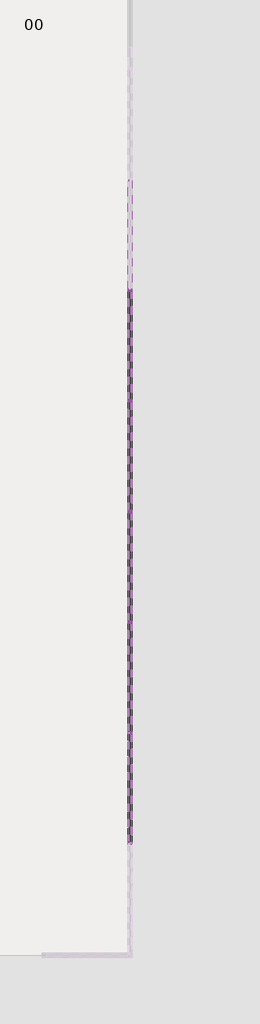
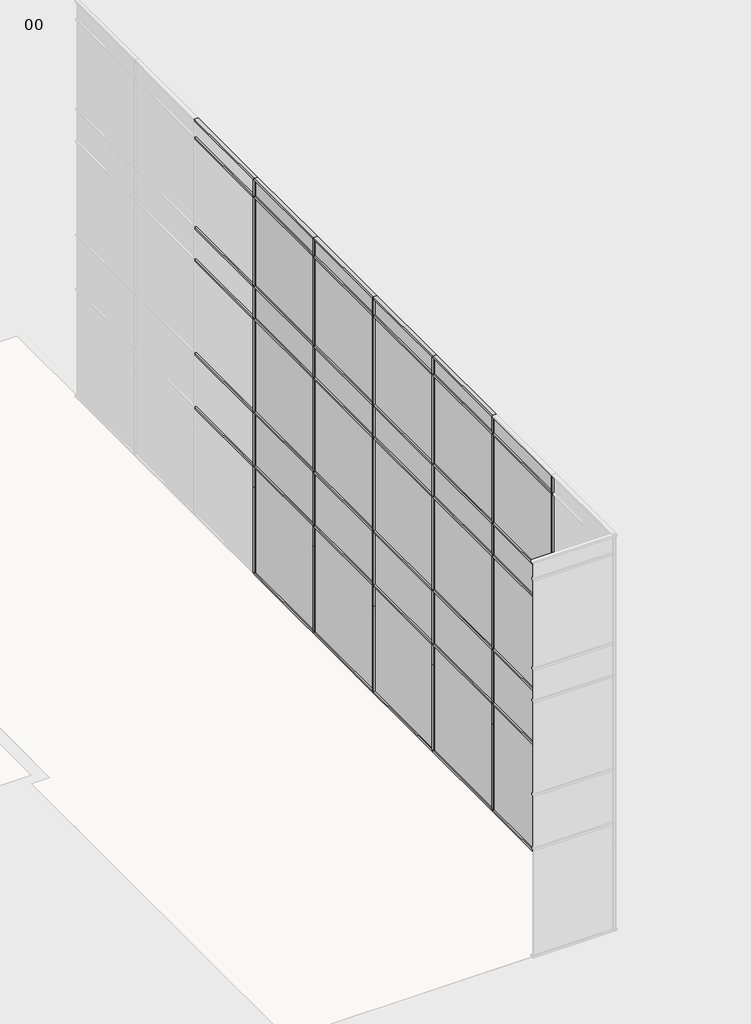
# One storey, part 5 of 11: 82 members, 30 plates.
"""IFC4 building model written with IfcOpenShell, lengths in millimetres."""

from ifc_helpers import new_model, si_unit, origin, place, context, project, spatial, transform, mapped, element, save
from components import rectangular_mullion_curtainwallmullion_rectangular_generic_8ae0e668, rectangular_mullion_curtainwallmullion_rectangular_generic_08fbcc14, rectangular_mullion_curtainwallmullion_rectangular_generic_5675a122, rectangular_mullion_curtainwallmullion_rectangular_generic_12ad56c0, rectangular_mullion_curtainwallmullion_rectangular_generic_bd817207, rectangular_mullion_curtainwallmullion_rectangular_generic_654ac675, rectangular_mullion_curtainwallmullion_rectangular_generic_c0600e94, rectangular_mullion_curtainwallmullion_rectangular_generic_c640f651, rectangular_mullion_curtainwallmullion_rectangular_generic_b2d53351, system_panel_curtainpanel_glazed_34fb785a, system_panel_curtainpanel_glazed_62d472f1, system_panel_curtainpanel_glazed_9c2ad216, system_panel_curtainpanel_solid_fc584997, system_panel_curtainpanel_solid_60141125, system_panel_curtainpanel_solid_5de49f81

model = new_model("IFC4")

# Units and contexts
model_context = context("Model", 3, world=origin())
ifc_project = project(units=[si_unit("LENGTHUNIT", "METRE", prefix="MILLI")], contexts=[model_context])

# Site, building, storey
site = spatial("IfcSite", under=ifc_project)
building = spatial("IfcBuilding", under=site)
storey = spatial("IfcBuildingStorey", under=building, Name="00", Elevation=0.0)

# Members
placement = place(None, origin())
rectangular_mullion_curtainwallmullion_rectangular_generic_shape = rectangular_mullion_curtainwallmullion_rectangular_generic_8ae0e668(model_context)
element("IfcMember", 1, ObjectType="Rectangular Mullion : CurtainWallMullion_Rectangular_Generic", at=placement, inside=storey, context=model_context, shape_type="MappedRepresentation", body=[
    mapped(rectangular_mullion_curtainwallmullion_rectangular_generic_shape, transform((454246.3206883, -392053.4026387, 10486.7), x_axis=(0.0, -1.0, 0.0), y_axis=(-1.0, 0.0, 0.0), z_axis=(0.0, 0.0, -1.0))),
])
element("IfcMember", 2, ObjectType="Rectangular Mullion : CurtainWallMullion_Rectangular_Generic", at=placement, inside=storey, context=model_context, shape_type="MappedRepresentation", body=[
    mapped(rectangular_mullion_curtainwallmullion_rectangular_generic_shape, transform((454246.3206883, -394768.0026386, 10486.7), x_axis=(0.0, -1.0, 0.0), y_axis=(-1.0, 0.0, 0.0), z_axis=(0.0, 0.0, -1.0))),
])
element("IfcMember", 3, ObjectType="Rectangular Mullion : CurtainWallMullion_Rectangular_Generic", at=placement, inside=storey, context=model_context, shape_type="MappedRepresentation", body=[
    mapped(rectangular_mullion_curtainwallmullion_rectangular_generic_shape, transform((454246.3206883, -397482.6026385, 10486.7), x_axis=(0.0, -1.0, 0.0), y_axis=(-1.0, 0.0, 0.0), z_axis=(0.0, 0.0, -1.0))),
])
element("IfcMember", 4, ObjectType="Rectangular Mullion : CurtainWallMullion_Rectangular_Generic", at=placement, inside=storey, context=model_context, shape_type="MappedRepresentation", body=[
    mapped(rectangular_mullion_curtainwallmullion_rectangular_generic_shape, transform((454246.3206883, -400197.2026385, 10486.7), x_axis=(0.0, -1.0, 0.0), y_axis=(-1.0, 0.0, 0.0), z_axis=(0.0, 0.0, -1.0))),
])
element("IfcMember", 5, ObjectType="Rectangular Mullion : CurtainWallMullion_Rectangular_Generic", at=placement, inside=storey, context=model_context, shape_type="MappedRepresentation", body=[
    mapped(rectangular_mullion_curtainwallmullion_rectangular_generic_shape, transform((454246.3206883, -402911.8026384, 10486.7), x_axis=(0.0, -1.0, 0.0), y_axis=(-1.0, 0.0, 0.0), z_axis=(0.0, 0.0, -1.0))),
])
element("IfcMember", 6, ObjectType="Rectangular Mullion : CurtainWallMullion_Rectangular_Generic", at=placement, inside=storey, context=model_context, shape_type="MappedRepresentation", body=[
    mapped(rectangular_mullion_curtainwallmullion_rectangular_generic_shape, transform((454246.3206883, -405626.4026384, 10486.7), x_axis=(0.0, -1.0, 0.0), y_axis=(-1.0, 0.0, 0.0), z_axis=(0.0, 0.0, -1.0))),
])
rectangular_mullion_curtainwallmullion_rectangular_generic_2_shape = rectangular_mullion_curtainwallmullion_rectangular_generic_08fbcc14(model_context)
element("IfcMember", 7, ObjectType="Rectangular Mullion : CurtainWallMullion_Rectangular_Generic", at=placement, inside=storey, context=model_context, shape_type="MappedRepresentation", body=[
    mapped(rectangular_mullion_curtainwallmullion_rectangular_generic_2_shape, transform((454246.3206883, -392053.4026387, 8000.0), x_axis=(0.0, -1.0, 0.0), y_axis=(-1.0, 0.0, 0.0), z_axis=(0.0, 0.0, -1.0))),
])
element("IfcMember", 8, ObjectType="Rectangular Mullion : CurtainWallMullion_Rectangular_Generic", at=placement, inside=storey, context=model_context, shape_type="MappedRepresentation", body=[
    mapped(rectangular_mullion_curtainwallmullion_rectangular_generic_2_shape, transform((454246.3206883, -394768.0026386, 8000.0), x_axis=(0.0, -1.0, 0.0), y_axis=(-1.0, 0.0, 0.0), z_axis=(0.0, 0.0, -1.0))),
])
element("IfcMember", 9, ObjectType="Rectangular Mullion : CurtainWallMullion_Rectangular_Generic", at=placement, inside=storey, context=model_context, shape_type="MappedRepresentation", body=[
    mapped(rectangular_mullion_curtainwallmullion_rectangular_generic_2_shape, transform((454246.3206883, -397482.6026385, 8000.0), x_axis=(0.0, -1.0, 0.0), y_axis=(-1.0, 0.0, 0.0), z_axis=(0.0, 0.0, -1.0))),
])
element("IfcMember", 10, ObjectType="Rectangular Mullion : CurtainWallMullion_Rectangular_Generic", at=placement, inside=storey, context=model_context, shape_type="MappedRepresentation", body=[
    mapped(rectangular_mullion_curtainwallmullion_rectangular_generic_2_shape, transform((454246.3206883, -400197.2026385, 8000.0), x_axis=(0.0, -1.0, 0.0), y_axis=(-1.0, 0.0, 0.0), z_axis=(0.0, 0.0, -1.0))),
])
element("IfcMember", 11, ObjectType="Rectangular Mullion : CurtainWallMullion_Rectangular_Generic", at=placement, inside=storey, context=model_context, shape_type="MappedRepresentation", body=[
    mapped(rectangular_mullion_curtainwallmullion_rectangular_generic_2_shape, transform((454246.3206883, -402911.8026384, 8000.0), x_axis=(0.0, -1.0, 0.0), y_axis=(-1.0, 0.0, 0.0), z_axis=(0.0, 0.0, -1.0))),
])
element("IfcMember", 12, ObjectType="Rectangular Mullion : CurtainWallMullion_Rectangular_Generic", at=placement, inside=storey, context=model_context, shape_type="MappedRepresentation", body=[
    mapped(rectangular_mullion_curtainwallmullion_rectangular_generic_2_shape, transform((454246.3206883, -405626.4026384, 8000.0), x_axis=(0.0, -1.0, 0.0), y_axis=(-1.0, 0.0, 0.0), z_axis=(0.0, 0.0, -1.0))),
])
rectangular_mullion_curtainwallmullion_rectangular_generic_3_shape = rectangular_mullion_curtainwallmullion_rectangular_generic_5675a122(model_context)
element("IfcMember", 13, ObjectType="Rectangular Mullion : CurtainWallMullion_Rectangular_Generic", at=placement, inside=storey, context=model_context, shape_type="MappedRepresentation", body=[
    mapped(rectangular_mullion_curtainwallmullion_rectangular_generic_3_shape, transform((454246.3206883, -392053.4026387, 50.0), x_axis=(0.0, -1.0, 0.0), y_axis=(-1.0, 0.0, 0.0), z_axis=(0.0, 0.0, -1.0))),
])
element("IfcMember", 14, ObjectType="Rectangular Mullion : CurtainWallMullion_Rectangular_Generic", at=placement, inside=storey, context=model_context, shape_type="MappedRepresentation", body=[
    mapped(rectangular_mullion_curtainwallmullion_rectangular_generic_3_shape, transform((454246.3206883, -394768.0026386, 50.0), x_axis=(0.0, -1.0, 0.0), y_axis=(-1.0, 0.0, 0.0), z_axis=(0.0, 0.0, -1.0))),
])
element("IfcMember", 15, ObjectType="Rectangular Mullion : CurtainWallMullion_Rectangular_Generic", at=placement, inside=storey, context=model_context, shape_type="MappedRepresentation", body=[
    mapped(rectangular_mullion_curtainwallmullion_rectangular_generic_3_shape, transform((454246.3206883, -397482.6026385, 50.0), x_axis=(0.0, -1.0, 0.0), y_axis=(-1.0, 0.0, 0.0), z_axis=(0.0, 0.0, -1.0))),
])
element("IfcMember", 16, ObjectType="Rectangular Mullion : CurtainWallMullion_Rectangular_Generic", at=placement, inside=storey, context=model_context, shape_type="MappedRepresentation", body=[
    mapped(rectangular_mullion_curtainwallmullion_rectangular_generic_3_shape, transform((454246.3206883, -400197.2026385, 50.0), x_axis=(0.0, -1.0, 0.0), y_axis=(-1.0, 0.0, 0.0), z_axis=(0.0, 0.0, -1.0))),
])
element("IfcMember", 17, ObjectType="Rectangular Mullion : CurtainWallMullion_Rectangular_Generic", at=placement, inside=storey, context=model_context, shape_type="MappedRepresentation", body=[
    mapped(rectangular_mullion_curtainwallmullion_rectangular_generic_3_shape, transform((454246.3206883, -402911.8026384, 50.0), x_axis=(0.0, -1.0, 0.0), y_axis=(-1.0, 0.0, 0.0), z_axis=(0.0, 0.0, -1.0))),
])
element("IfcMember", 18, ObjectType="Rectangular Mullion : CurtainWallMullion_Rectangular_Generic", at=placement, inside=storey, context=model_context, shape_type="MappedRepresentation", body=[
    mapped(rectangular_mullion_curtainwallmullion_rectangular_generic_3_shape, transform((454246.3206883, -405626.4026384, 50.0), x_axis=(0.0, -1.0, 0.0), y_axis=(-1.0, 0.0, 0.0), z_axis=(0.0, 0.0, -1.0))),
])
rectangular_mullion_curtainwallmullion_rectangular_generic_4_shape = rectangular_mullion_curtainwallmullion_rectangular_generic_12ad56c0(model_context)
element("IfcMember", 19, ObjectType="Rectangular Mullion : CurtainWallMullion_Rectangular_Generic", at=placement, inside=storey, context=model_context, shape_type="MappedRepresentation", body=[
    mapped(rectangular_mullion_curtainwallmullion_rectangular_generic_4_shape, transform((454246.3206883, -392053.4026387, 11000.0), x_axis=(0.0, 0.0, 1.0), y_axis=(-1.0, 0.0, 0.0), z_axis=(0.0, -1.0, 0.0))),
])
element("IfcMember", 20, ObjectType="Rectangular Mullion : CurtainWallMullion_Rectangular_Generic", at=placement, inside=storey, context=model_context, shape_type="MappedRepresentation", body=[
    mapped(rectangular_mullion_curtainwallmullion_rectangular_generic_4_shape, transform((454246.3206883, -394768.0026386, 11000.0), x_axis=(0.0, 0.0, 1.0), y_axis=(-1.0, 0.0, 0.0), z_axis=(0.0, -1.0, 0.0))),
])
element("IfcMember", 21, ObjectType="Rectangular Mullion : CurtainWallMullion_Rectangular_Generic", at=placement, inside=storey, context=model_context, shape_type="MappedRepresentation", body=[
    mapped(rectangular_mullion_curtainwallmullion_rectangular_generic_4_shape, transform((454246.3206883, -397482.6026385, 11000.0), x_axis=(0.0, 0.0, 1.0), y_axis=(-1.0, 0.0, 0.0), z_axis=(0.0, -1.0, 0.0))),
])
element("IfcMember", 22, ObjectType="Rectangular Mullion : CurtainWallMullion_Rectangular_Generic", at=placement, inside=storey, context=model_context, shape_type="MappedRepresentation", body=[
    mapped(rectangular_mullion_curtainwallmullion_rectangular_generic_4_shape, transform((454246.3206883, -400197.2026385, 11000.0), x_axis=(0.0, 0.0, 1.0), y_axis=(-1.0, 0.0, 0.0), z_axis=(0.0, -1.0, 0.0))),
])
element("IfcMember", 23, ObjectType="Rectangular Mullion : CurtainWallMullion_Rectangular_Generic", at=placement, inside=storey, context=model_context, shape_type="MappedRepresentation", body=[
    mapped(rectangular_mullion_curtainwallmullion_rectangular_generic_4_shape, transform((454246.3206883, -402911.8026384, 11000.0), x_axis=(0.0, 0.0, 1.0), y_axis=(-1.0, 0.0, 0.0), z_axis=(0.0, -1.0, 0.0))),
])
element("IfcMember", 24, ObjectType="Rectangular Mullion : CurtainWallMullion_Rectangular_Generic", at=placement, inside=storey, context=model_context, shape_type="MappedRepresentation", body=[
    mapped(rectangular_mullion_curtainwallmullion_rectangular_generic_4_shape, transform((454246.3206883, -392053.4026387, 0.0), x_axis=(0.0, 0.0, -1.0), y_axis=(-1.0, 0.0, 0.0), z_axis=(0.0, 1.0, 0.0))),
])
element("IfcMember", 25, ObjectType="Rectangular Mullion : CurtainWallMullion_Rectangular_Generic", at=placement, inside=storey, context=model_context, shape_type="MappedRepresentation", body=[
    mapped(rectangular_mullion_curtainwallmullion_rectangular_generic_4_shape, transform((454246.3206883, -394768.0026386, 0.0), x_axis=(0.0, 0.0, -1.0), y_axis=(-1.0, 0.0, 0.0), z_axis=(0.0, 1.0, 0.0))),
])
element("IfcMember", 26, ObjectType="Rectangular Mullion : CurtainWallMullion_Rectangular_Generic", at=placement, inside=storey, context=model_context, shape_type="MappedRepresentation", body=[
    mapped(rectangular_mullion_curtainwallmullion_rectangular_generic_4_shape, transform((454246.3206883, -397482.6026385, 0.0), x_axis=(0.0, 0.0, -1.0), y_axis=(-1.0, 0.0, 0.0), z_axis=(0.0, 1.0, 0.0))),
])
element("IfcMember", 27, ObjectType="Rectangular Mullion : CurtainWallMullion_Rectangular_Generic", at=placement, inside=storey, context=model_context, shape_type="MappedRepresentation", body=[
    mapped(rectangular_mullion_curtainwallmullion_rectangular_generic_4_shape, transform((454246.3206883, -400197.2026385, 0.0), x_axis=(0.0, 0.0, -1.0), y_axis=(-1.0, 0.0, 0.0), z_axis=(0.0, 1.0, 0.0))),
])
element("IfcMember", 28, ObjectType="Rectangular Mullion : CurtainWallMullion_Rectangular_Generic", at=placement, inside=storey, context=model_context, shape_type="MappedRepresentation", body=[
    mapped(rectangular_mullion_curtainwallmullion_rectangular_generic_4_shape, transform((454246.3206883, -402911.8026384, 0.0), x_axis=(0.0, 0.0, -1.0), y_axis=(-1.0, 0.0, 0.0), z_axis=(0.0, 1.0, 0.0))),
])
rectangular_mullion_curtainwallmullion_rectangular_generic_5_shape = rectangular_mullion_curtainwallmullion_rectangular_generic_bd817207(model_context)
element("IfcMember", 29, ObjectType="Rectangular Mullion : CurtainWallMullion_Rectangular_Generic", at=placement, inside=storey, context=model_context, shape_type="MappedRepresentation", body=[
    mapped(rectangular_mullion_curtainwallmullion_rectangular_generic_5_shape, transform((454246.3206883, -392028.4026387, 4500.0), x_axis=(0.0, 0.0, 1.0), y_axis=(-1.0, 0.0, 0.0), z_axis=(0.0, -1.0, 0.0))),
])
element("IfcMember", 30, ObjectType="Rectangular Mullion : CurtainWallMullion_Rectangular_Generic", at=placement, inside=storey, context=model_context, shape_type="MappedRepresentation", body=[
    mapped(rectangular_mullion_curtainwallmullion_rectangular_generic_5_shape, transform((454246.3206883, -394743.0026386, 4500.0), x_axis=(0.0, 0.0, 1.0), y_axis=(-1.0, 0.0, 0.0), z_axis=(0.0, -1.0, 0.0))),
])
element("IfcMember", 31, ObjectType="Rectangular Mullion : CurtainWallMullion_Rectangular_Generic", at=placement, inside=storey, context=model_context, shape_type="MappedRepresentation", body=[
    mapped(rectangular_mullion_curtainwallmullion_rectangular_generic_5_shape, transform((454246.3206883, -392028.4026387, 7100.0), x_axis=(0.0, 0.0, 1.0), y_axis=(-1.0, 0.0, 0.0), z_axis=(0.0, -1.0, 0.0))),
])
element("IfcMember", 32, ObjectType="Rectangular Mullion : CurtainWallMullion_Rectangular_Generic", at=placement, inside=storey, context=model_context, shape_type="MappedRepresentation", body=[
    mapped(rectangular_mullion_curtainwallmullion_rectangular_generic_5_shape, transform((454246.3206883, -394743.0026386, 7100.0), x_axis=(0.0, 0.0, 1.0), y_axis=(-1.0, 0.0, 0.0), z_axis=(0.0, -1.0, 0.0))),
])
element("IfcMember", 33, ObjectType="Rectangular Mullion : CurtainWallMullion_Rectangular_Generic", at=placement, inside=storey, context=model_context, shape_type="MappedRepresentation", body=[
    mapped(rectangular_mullion_curtainwallmullion_rectangular_generic_5_shape, transform((454246.3206883, -392028.4026387, 10486.7), x_axis=(0.0, 0.0, 1.0), y_axis=(-1.0, 0.0, 0.0), z_axis=(0.0, -1.0, 0.0))),
])
element("IfcMember", 34, ObjectType="Rectangular Mullion : CurtainWallMullion_Rectangular_Generic", at=placement, inside=storey, context=model_context, shape_type="MappedRepresentation", body=[
    mapped(rectangular_mullion_curtainwallmullion_rectangular_generic_5_shape, transform((454246.3206883, -394743.0026386, 10486.7), x_axis=(0.0, 0.0, 1.0), y_axis=(-1.0, 0.0, 0.0), z_axis=(0.0, -1.0, 0.0))),
])
element("IfcMember", 35, ObjectType="Rectangular Mullion : CurtainWallMullion_Rectangular_Generic", at=placement, inside=storey, context=model_context, shape_type="MappedRepresentation", body=[
    mapped(rectangular_mullion_curtainwallmullion_rectangular_generic_5_shape, transform((454246.3206883, -397457.6026385, 4500.0), x_axis=(0.0, 0.0, 1.0), y_axis=(-1.0, 0.0, 0.0), z_axis=(0.0, -1.0, 0.0))),
])
element("IfcMember", 36, ObjectType="Rectangular Mullion : CurtainWallMullion_Rectangular_Generic", at=placement, inside=storey, context=model_context, shape_type="MappedRepresentation", body=[
    mapped(rectangular_mullion_curtainwallmullion_rectangular_generic_5_shape, transform((454246.3206883, -400172.2026385, 4500.0), x_axis=(0.0, 0.0, 1.0), y_axis=(-1.0, 0.0, 0.0), z_axis=(0.0, -1.0, 0.0))),
])
element("IfcMember", 37, ObjectType="Rectangular Mullion : CurtainWallMullion_Rectangular_Generic", at=placement, inside=storey, context=model_context, shape_type="MappedRepresentation", body=[
    mapped(rectangular_mullion_curtainwallmullion_rectangular_generic_5_shape, transform((454246.3206883, -402886.8026384, 4500.0), x_axis=(0.0, 0.0, 1.0), y_axis=(-1.0, 0.0, 0.0), z_axis=(0.0, -1.0, 0.0))),
])
element("IfcMember", 38, ObjectType="Rectangular Mullion : CurtainWallMullion_Rectangular_Generic", at=placement, inside=storey, context=model_context, shape_type="MappedRepresentation", body=[
    mapped(rectangular_mullion_curtainwallmullion_rectangular_generic_5_shape, transform((454246.3206883, -405601.4026384, 4500.0), x_axis=(0.0, 0.0, 1.0), y_axis=(-1.0, 0.0, 0.0), z_axis=(0.0, -1.0, 0.0))),
])
element("IfcMember", 39, ObjectType="Rectangular Mullion : CurtainWallMullion_Rectangular_Generic", at=placement, inside=storey, context=model_context, shape_type="MappedRepresentation", body=[
    mapped(rectangular_mullion_curtainwallmullion_rectangular_generic_5_shape, transform((454246.3206883, -397457.6026385, 7100.0), x_axis=(0.0, 0.0, 1.0), y_axis=(-1.0, 0.0, 0.0), z_axis=(0.0, -1.0, 0.0))),
])
element("IfcMember", 40, ObjectType="Rectangular Mullion : CurtainWallMullion_Rectangular_Generic", at=placement, inside=storey, context=model_context, shape_type="MappedRepresentation", body=[
    mapped(rectangular_mullion_curtainwallmullion_rectangular_generic_5_shape, transform((454246.3206883, -400172.2026385, 7100.0), x_axis=(0.0, 0.0, 1.0), y_axis=(-1.0, 0.0, 0.0), z_axis=(0.0, -1.0, 0.0))),
])
element("IfcMember", 41, ObjectType="Rectangular Mullion : CurtainWallMullion_Rectangular_Generic", at=placement, inside=storey, context=model_context, shape_type="MappedRepresentation", body=[
    mapped(rectangular_mullion_curtainwallmullion_rectangular_generic_5_shape, transform((454246.3206883, -402886.8026384, 7100.0), x_axis=(0.0, 0.0, 1.0), y_axis=(-1.0, 0.0, 0.0), z_axis=(0.0, -1.0, 0.0))),
])
element("IfcMember", 42, ObjectType="Rectangular Mullion : CurtainWallMullion_Rectangular_Generic", at=placement, inside=storey, context=model_context, shape_type="MappedRepresentation", body=[
    mapped(rectangular_mullion_curtainwallmullion_rectangular_generic_5_shape, transform((454246.3206883, -405601.4026384, 7100.0), x_axis=(0.0, 0.0, 1.0), y_axis=(-1.0, 0.0, 0.0), z_axis=(0.0, -1.0, 0.0))),
])
element("IfcMember", 43, ObjectType="Rectangular Mullion : CurtainWallMullion_Rectangular_Generic", at=placement, inside=storey, context=model_context, shape_type="MappedRepresentation", body=[
    mapped(rectangular_mullion_curtainwallmullion_rectangular_generic_5_shape, transform((454246.3206883, -397457.6026385, 10486.7), x_axis=(0.0, 0.0, 1.0), y_axis=(-1.0, 0.0, 0.0), z_axis=(0.0, -1.0, 0.0))),
])
element("IfcMember", 44, ObjectType="Rectangular Mullion : CurtainWallMullion_Rectangular_Generic", at=placement, inside=storey, context=model_context, shape_type="MappedRepresentation", body=[
    mapped(rectangular_mullion_curtainwallmullion_rectangular_generic_5_shape, transform((454246.3206883, -400172.2026385, 10486.7), x_axis=(0.0, 0.0, 1.0), y_axis=(-1.0, 0.0, 0.0), z_axis=(0.0, -1.0, 0.0))),
])
element("IfcMember", 45, ObjectType="Rectangular Mullion : CurtainWallMullion_Rectangular_Generic", at=placement, inside=storey, context=model_context, shape_type="MappedRepresentation", body=[
    mapped(rectangular_mullion_curtainwallmullion_rectangular_generic_5_shape, transform((454246.3206883, -402886.8026384, 10486.7), x_axis=(0.0, 0.0, 1.0), y_axis=(-1.0, 0.0, 0.0), z_axis=(0.0, -1.0, 0.0))),
])
element("IfcMember", 46, ObjectType="Rectangular Mullion : CurtainWallMullion_Rectangular_Generic", at=placement, inside=storey, context=model_context, shape_type="MappedRepresentation", body=[
    mapped(rectangular_mullion_curtainwallmullion_rectangular_generic_5_shape, transform((454246.3206883, -405601.4026384, 10486.7), x_axis=(0.0, 0.0, 1.0), y_axis=(-1.0, 0.0, 0.0), z_axis=(0.0, -1.0, 0.0))),
])
element("IfcMember", 47, ObjectType="Rectangular Mullion : CurtainWallMullion_Rectangular_Generic", at=placement, inside=storey, context=model_context, shape_type="MappedRepresentation", body=[
    mapped(rectangular_mullion_curtainwallmullion_rectangular_generic_5_shape, transform((454246.3206883, -392028.4026387, 8000.0), x_axis=(0.0, 0.0, 1.0), y_axis=(-1.0, 0.0, 0.0), z_axis=(0.0, -1.0, 0.0))),
])
element("IfcMember", 48, ObjectType="Rectangular Mullion : CurtainWallMullion_Rectangular_Generic", at=placement, inside=storey, context=model_context, shape_type="MappedRepresentation", body=[
    mapped(rectangular_mullion_curtainwallmullion_rectangular_generic_5_shape, transform((454246.3206883, -394743.0026386, 8000.0), x_axis=(0.0, 0.0, 1.0), y_axis=(-1.0, 0.0, 0.0), z_axis=(0.0, -1.0, 0.0))),
])
element("IfcMember", 49, ObjectType="Rectangular Mullion : CurtainWallMullion_Rectangular_Generic", at=placement, inside=storey, context=model_context, shape_type="MappedRepresentation", body=[
    mapped(rectangular_mullion_curtainwallmullion_rectangular_generic_5_shape, transform((454246.3206883, -397457.6026385, 8000.0), x_axis=(0.0, 0.0, 1.0), y_axis=(-1.0, 0.0, 0.0), z_axis=(0.0, -1.0, 0.0))),
])
element("IfcMember", 50, ObjectType="Rectangular Mullion : CurtainWallMullion_Rectangular_Generic", at=placement, inside=storey, context=model_context, shape_type="MappedRepresentation", body=[
    mapped(rectangular_mullion_curtainwallmullion_rectangular_generic_5_shape, transform((454246.3206883, -400172.2026385, 8000.0), x_axis=(0.0, 0.0, 1.0), y_axis=(-1.0, 0.0, 0.0), z_axis=(0.0, -1.0, 0.0))),
])
element("IfcMember", 51, ObjectType="Rectangular Mullion : CurtainWallMullion_Rectangular_Generic", at=placement, inside=storey, context=model_context, shape_type="MappedRepresentation", body=[
    mapped(rectangular_mullion_curtainwallmullion_rectangular_generic_5_shape, transform((454246.3206883, -402886.8026384, 8000.0), x_axis=(0.0, 0.0, 1.0), y_axis=(-1.0, 0.0, 0.0), z_axis=(0.0, -1.0, 0.0))),
])
element("IfcMember", 52, ObjectType="Rectangular Mullion : CurtainWallMullion_Rectangular_Generic", at=placement, inside=storey, context=model_context, shape_type="MappedRepresentation", body=[
    mapped(rectangular_mullion_curtainwallmullion_rectangular_generic_5_shape, transform((454246.3206883, -405601.4026384, 8000.0), x_axis=(0.0, 0.0, 1.0), y_axis=(-1.0, 0.0, 0.0), z_axis=(0.0, -1.0, 0.0))),
])
element("IfcMember", 53, ObjectType="Rectangular Mullion : CurtainWallMullion_Rectangular_Generic", at=placement, inside=storey, context=model_context, shape_type="MappedRepresentation", body=[
    mapped(rectangular_mullion_curtainwallmullion_rectangular_generic_5_shape, transform((454246.3206883, -392028.4026387, 3000.0), x_axis=(0.0, 0.0, 1.0), y_axis=(-1.0, 0.0, 0.0), z_axis=(0.0, -1.0, 0.0))),
])
element("IfcMember", 54, ObjectType="Rectangular Mullion : CurtainWallMullion_Rectangular_Generic", at=placement, inside=storey, context=model_context, shape_type="MappedRepresentation", body=[
    mapped(rectangular_mullion_curtainwallmullion_rectangular_generic_5_shape, transform((454246.3206883, -394743.0026386, 3000.0), x_axis=(0.0, 0.0, 1.0), y_axis=(-1.0, 0.0, 0.0), z_axis=(0.0, -1.0, 0.0))),
])
element("IfcMember", 55, ObjectType="Rectangular Mullion : CurtainWallMullion_Rectangular_Generic", at=placement, inside=storey, context=model_context, shape_type="MappedRepresentation", body=[
    mapped(rectangular_mullion_curtainwallmullion_rectangular_generic_5_shape, transform((454246.3206883, -397457.6026385, 3000.0), x_axis=(0.0, 0.0, 1.0), y_axis=(-1.0, 0.0, 0.0), z_axis=(0.0, -1.0, 0.0))),
])
element("IfcMember", 56, ObjectType="Rectangular Mullion : CurtainWallMullion_Rectangular_Generic", at=placement, inside=storey, context=model_context, shape_type="MappedRepresentation", body=[
    mapped(rectangular_mullion_curtainwallmullion_rectangular_generic_5_shape, transform((454246.3206883, -400172.2026385, 3000.0), x_axis=(0.0, 0.0, 1.0), y_axis=(-1.0, 0.0, 0.0), z_axis=(0.0, -1.0, 0.0))),
])
element("IfcMember", 57, ObjectType="Rectangular Mullion : CurtainWallMullion_Rectangular_Generic", at=placement, inside=storey, context=model_context, shape_type="MappedRepresentation", body=[
    mapped(rectangular_mullion_curtainwallmullion_rectangular_generic_5_shape, transform((454246.3206883, -402886.8026384, 3000.0), x_axis=(0.0, 0.0, 1.0), y_axis=(-1.0, 0.0, 0.0), z_axis=(0.0, -1.0, 0.0))),
])
element("IfcMember", 58, ObjectType="Rectangular Mullion : CurtainWallMullion_Rectangular_Generic", at=placement, inside=storey, context=model_context, shape_type="MappedRepresentation", body=[
    mapped(rectangular_mullion_curtainwallmullion_rectangular_generic_5_shape, transform((454246.3206883, -405601.4026384, 3000.0), x_axis=(0.0, 0.0, 1.0), y_axis=(-1.0, 0.0, 0.0), z_axis=(0.0, -1.0, 0.0))),
])
rectangular_mullion_curtainwallmullion_rectangular_generic_6_shape = rectangular_mullion_curtainwallmullion_rectangular_generic_654ac675(model_context)
element("IfcMember", 59, ObjectType="Rectangular Mullion : CurtainWallMullion_Rectangular_Generic", at=placement, inside=storey, context=model_context, shape_type="MappedRepresentation", body=[
    mapped(rectangular_mullion_curtainwallmullion_rectangular_generic_6_shape, transform((454246.3206883, -392053.4026387, 4500.0), x_axis=(0.0, -1.0, 0.0), y_axis=(-1.0, 0.0, 0.0), z_axis=(0.0, 0.0, -1.0))),
])
element("IfcMember", 60, ObjectType="Rectangular Mullion : CurtainWallMullion_Rectangular_Generic", at=placement, inside=storey, context=model_context, shape_type="MappedRepresentation", body=[
    mapped(rectangular_mullion_curtainwallmullion_rectangular_generic_6_shape, transform((454246.3206883, -394768.0026386, 4500.0), x_axis=(0.0, -1.0, 0.0), y_axis=(-1.0, 0.0, 0.0), z_axis=(0.0, 0.0, -1.0))),
])
element("IfcMember", 61, ObjectType="Rectangular Mullion : CurtainWallMullion_Rectangular_Generic", at=placement, inside=storey, context=model_context, shape_type="MappedRepresentation", body=[
    mapped(rectangular_mullion_curtainwallmullion_rectangular_generic_6_shape, transform((454246.3206883, -397482.6026385, 4500.0), x_axis=(0.0, -1.0, 0.0), y_axis=(-1.0, 0.0, 0.0), z_axis=(0.0, 0.0, -1.0))),
])
element("IfcMember", 62, ObjectType="Rectangular Mullion : CurtainWallMullion_Rectangular_Generic", at=placement, inside=storey, context=model_context, shape_type="MappedRepresentation", body=[
    mapped(rectangular_mullion_curtainwallmullion_rectangular_generic_6_shape, transform((454246.3206883, -400197.2026385, 4500.0), x_axis=(0.0, -1.0, 0.0), y_axis=(-1.0, 0.0, 0.0), z_axis=(0.0, 0.0, -1.0))),
])
element("IfcMember", 63, ObjectType="Rectangular Mullion : CurtainWallMullion_Rectangular_Generic", at=placement, inside=storey, context=model_context, shape_type="MappedRepresentation", body=[
    mapped(rectangular_mullion_curtainwallmullion_rectangular_generic_6_shape, transform((454246.3206883, -402911.8026384, 4500.0), x_axis=(0.0, -1.0, 0.0), y_axis=(-1.0, 0.0, 0.0), z_axis=(0.0, 0.0, -1.0))),
])
element("IfcMember", 64, ObjectType="Rectangular Mullion : CurtainWallMullion_Rectangular_Generic", at=placement, inside=storey, context=model_context, shape_type="MappedRepresentation", body=[
    mapped(rectangular_mullion_curtainwallmullion_rectangular_generic_6_shape, transform((454246.3206883, -405626.4026384, 4500.0), x_axis=(0.0, -1.0, 0.0), y_axis=(-1.0, 0.0, 0.0), z_axis=(0.0, 0.0, -1.0))),
])
rectangular_mullion_curtainwallmullion_rectangular_generic_7_shape = rectangular_mullion_curtainwallmullion_rectangular_generic_c0600e94(model_context)
element("IfcMember", 65, ObjectType="Rectangular Mullion : CurtainWallMullion_Rectangular_Generic", at=placement, inside=storey, context=model_context, shape_type="MappedRepresentation", body=[
    mapped(rectangular_mullion_curtainwallmullion_rectangular_generic_7_shape, transform((454246.3206883, -392053.4026387, 3000.0), x_axis=(0.0, -1.0, 0.0), y_axis=(-1.0, 0.0, 0.0), z_axis=(0.0, 0.0, -1.0))),
])
element("IfcMember", 66, ObjectType="Rectangular Mullion : CurtainWallMullion_Rectangular_Generic", at=placement, inside=storey, context=model_context, shape_type="MappedRepresentation", body=[
    mapped(rectangular_mullion_curtainwallmullion_rectangular_generic_7_shape, transform((454246.3206883, -394768.0026386, 3000.0), x_axis=(0.0, -1.0, 0.0), y_axis=(-1.0, 0.0, 0.0), z_axis=(0.0, 0.0, -1.0))),
])
element("IfcMember", 67, ObjectType="Rectangular Mullion : CurtainWallMullion_Rectangular_Generic", at=placement, inside=storey, context=model_context, shape_type="MappedRepresentation", body=[
    mapped(rectangular_mullion_curtainwallmullion_rectangular_generic_7_shape, transform((454246.3206883, -397482.6026385, 3000.0), x_axis=(0.0, -1.0, 0.0), y_axis=(-1.0, 0.0, 0.0), z_axis=(0.0, 0.0, -1.0))),
])
element("IfcMember", 68, ObjectType="Rectangular Mullion : CurtainWallMullion_Rectangular_Generic", at=placement, inside=storey, context=model_context, shape_type="MappedRepresentation", body=[
    mapped(rectangular_mullion_curtainwallmullion_rectangular_generic_7_shape, transform((454246.3206883, -400197.2026385, 3000.0), x_axis=(0.0, -1.0, 0.0), y_axis=(-1.0, 0.0, 0.0), z_axis=(0.0, 0.0, -1.0))),
])
element("IfcMember", 69, ObjectType="Rectangular Mullion : CurtainWallMullion_Rectangular_Generic", at=placement, inside=storey, context=model_context, shape_type="MappedRepresentation", body=[
    mapped(rectangular_mullion_curtainwallmullion_rectangular_generic_7_shape, transform((454246.3206883, -402911.8026384, 3000.0), x_axis=(0.0, -1.0, 0.0), y_axis=(-1.0, 0.0, 0.0), z_axis=(0.0, 0.0, -1.0))),
])
element("IfcMember", 70, ObjectType="Rectangular Mullion : CurtainWallMullion_Rectangular_Generic", at=placement, inside=storey, context=model_context, shape_type="MappedRepresentation", body=[
    mapped(rectangular_mullion_curtainwallmullion_rectangular_generic_7_shape, transform((454246.3206883, -405626.4026384, 3000.0), x_axis=(0.0, -1.0, 0.0), y_axis=(-1.0, 0.0, 0.0), z_axis=(0.0, 0.0, -1.0))),
])
rectangular_mullion_curtainwallmullion_rectangular_generic_8_shape = rectangular_mullion_curtainwallmullion_rectangular_generic_c640f651(model_context)
element("IfcMember", 71, ObjectType="Rectangular Mullion : CurtainWallMullion_Rectangular_Generic", at=placement, inside=storey, context=model_context, shape_type="MappedRepresentation", body=[
    mapped(rectangular_mullion_curtainwallmullion_rectangular_generic_8_shape, transform((454246.3206883, -392053.4026387, 7100.0), x_axis=(0.0, -1.0, 0.0), y_axis=(-1.0, 0.0, 0.0), z_axis=(0.0, 0.0, -1.0))),
])
element("IfcMember", 72, ObjectType="Rectangular Mullion : CurtainWallMullion_Rectangular_Generic", at=placement, inside=storey, context=model_context, shape_type="MappedRepresentation", body=[
    mapped(rectangular_mullion_curtainwallmullion_rectangular_generic_8_shape, transform((454246.3206883, -394768.0026386, 7100.0), x_axis=(0.0, -1.0, 0.0), y_axis=(-1.0, 0.0, 0.0), z_axis=(0.0, 0.0, -1.0))),
])
element("IfcMember", 73, ObjectType="Rectangular Mullion : CurtainWallMullion_Rectangular_Generic", at=placement, inside=storey, context=model_context, shape_type="MappedRepresentation", body=[
    mapped(rectangular_mullion_curtainwallmullion_rectangular_generic_8_shape, transform((454246.3206883, -397482.6026385, 7100.0), x_axis=(0.0, -1.0, 0.0), y_axis=(-1.0, 0.0, 0.0), z_axis=(0.0, 0.0, -1.0))),
])
element("IfcMember", 74, ObjectType="Rectangular Mullion : CurtainWallMullion_Rectangular_Generic", at=placement, inside=storey, context=model_context, shape_type="MappedRepresentation", body=[
    mapped(rectangular_mullion_curtainwallmullion_rectangular_generic_8_shape, transform((454246.3206883, -400197.2026385, 7100.0), x_axis=(0.0, -1.0, 0.0), y_axis=(-1.0, 0.0, 0.0), z_axis=(0.0, 0.0, -1.0))),
])
element("IfcMember", 75, ObjectType="Rectangular Mullion : CurtainWallMullion_Rectangular_Generic", at=placement, inside=storey, context=model_context, shape_type="MappedRepresentation", body=[
    mapped(rectangular_mullion_curtainwallmullion_rectangular_generic_8_shape, transform((454246.3206883, -402911.8026384, 7100.0), x_axis=(0.0, -1.0, 0.0), y_axis=(-1.0, 0.0, 0.0), z_axis=(0.0, 0.0, -1.0))),
])
element("IfcMember", 76, ObjectType="Rectangular Mullion : CurtainWallMullion_Rectangular_Generic", at=placement, inside=storey, context=model_context, shape_type="MappedRepresentation", body=[
    mapped(rectangular_mullion_curtainwallmullion_rectangular_generic_8_shape, transform((454246.3206883, -405626.4026384, 7100.0), x_axis=(0.0, -1.0, 0.0), y_axis=(-1.0, 0.0, 0.0), z_axis=(0.0, 0.0, -1.0))),
])
rectangular_mullion_curtainwallmullion_rectangular_generic_9_shape = rectangular_mullion_curtainwallmullion_rectangular_generic_b2d53351(model_context)
element("IfcMember", 77, ObjectType="Rectangular Mullion : CurtainWallMullion_Rectangular_Generic", at=placement, inside=storey, context=model_context, shape_type="MappedRepresentation", body=[
    mapped(rectangular_mullion_curtainwallmullion_rectangular_generic_9_shape, transform((454246.3206883, -392053.4026387, 2425.0), x_axis=(0.0, -1.0, 0.0), y_axis=(-1.0, 0.0, 0.0), z_axis=(0.0, 0.0, -1.0))),
])
element("IfcMember", 78, ObjectType="Rectangular Mullion : CurtainWallMullion_Rectangular_Generic", at=placement, inside=storey, context=model_context, shape_type="MappedRepresentation", body=[
    mapped(rectangular_mullion_curtainwallmullion_rectangular_generic_9_shape, transform((454246.3206883, -394768.0026386, 2425.0), x_axis=(0.0, -1.0, 0.0), y_axis=(-1.0, 0.0, 0.0), z_axis=(0.0, 0.0, -1.0))),
])
element("IfcMember", 79, ObjectType="Rectangular Mullion : CurtainWallMullion_Rectangular_Generic", at=placement, inside=storey, context=model_context, shape_type="MappedRepresentation", body=[
    mapped(rectangular_mullion_curtainwallmullion_rectangular_generic_9_shape, transform((454246.3206883, -397482.6026385, 2425.0), x_axis=(0.0, -1.0, 0.0), y_axis=(-1.0, 0.0, 0.0), z_axis=(0.0, 0.0, -1.0))),
])
element("IfcMember", 80, ObjectType="Rectangular Mullion : CurtainWallMullion_Rectangular_Generic", at=placement, inside=storey, context=model_context, shape_type="MappedRepresentation", body=[
    mapped(rectangular_mullion_curtainwallmullion_rectangular_generic_9_shape, transform((454246.3206883, -400197.2026385, 2425.0), x_axis=(0.0, -1.0, 0.0), y_axis=(-1.0, 0.0, 0.0), z_axis=(0.0, 0.0, -1.0))),
])
element("IfcMember", 81, ObjectType="Rectangular Mullion : CurtainWallMullion_Rectangular_Generic", at=placement, inside=storey, context=model_context, shape_type="MappedRepresentation", body=[
    mapped(rectangular_mullion_curtainwallmullion_rectangular_generic_9_shape, transform((454246.3206883, -402911.8026384, 2425.0), x_axis=(0.0, -1.0, 0.0), y_axis=(-1.0, 0.0, 0.0), z_axis=(0.0, 0.0, -1.0))),
])
element("IfcMember", 82, ObjectType="Rectangular Mullion : CurtainWallMullion_Rectangular_Generic", at=placement, inside=storey, context=model_context, shape_type="MappedRepresentation", body=[
    mapped(rectangular_mullion_curtainwallmullion_rectangular_generic_9_shape, transform((454246.3206883, -405626.4026384, 2425.0), x_axis=(0.0, -1.0, 0.0), y_axis=(-1.0, 0.0, 0.0), z_axis=(0.0, 0.0, -1.0))),
])

# Plates
system_panel_curtainpanel_glazed_shape = system_panel_curtainpanel_glazed_34fb785a(model_context)
element("IfcPlate", 83, ObjectType="System Panel : CurtainPanel_Glazed", at=placement, inside=storey, context=model_context, shape_type="MappedRepresentation", body=[
    mapped(system_panel_curtainpanel_glazed_shape, transform((454246.3206883, -393410.7026386, 8025.0), x_axis=(0.0, -1.0, 0.0), y_axis=(1.0, 0.0, 0.0), z_axis=(0.0, 0.0, 1.0))),
])
element("IfcPlate", 84, ObjectType="System Panel : CurtainPanel_Glazed", at=placement, inside=storey, context=model_context, shape_type="MappedRepresentation", body=[
    mapped(system_panel_curtainpanel_glazed_shape, transform((454246.3206883, -396125.3026386, 8025.0), x_axis=(0.0, -1.0, 0.0), y_axis=(1.0, 0.0, 0.0), z_axis=(0.0, 0.0, 1.0))),
])
element("IfcPlate", 85, ObjectType="System Panel : CurtainPanel_Glazed", at=placement, inside=storey, context=model_context, shape_type="MappedRepresentation", body=[
    mapped(system_panel_curtainpanel_glazed_shape, transform((454246.3206883, -398839.9026385, 8025.0), x_axis=(0.0, -1.0, 0.0), y_axis=(1.0, 0.0, 0.0), z_axis=(0.0, 0.0, 1.0))),
])
element("IfcPlate", 86, ObjectType="System Panel : CurtainPanel_Glazed", at=placement, inside=storey, context=model_context, shape_type="MappedRepresentation", body=[
    mapped(system_panel_curtainpanel_glazed_shape, transform((454246.3206883, -401554.5026385, 8025.0), x_axis=(0.0, -1.0, 0.0), y_axis=(1.0, 0.0, 0.0), z_axis=(0.0, 0.0, 1.0))),
])
element("IfcPlate", 87, ObjectType="System Panel : CurtainPanel_Glazed", at=placement, inside=storey, context=model_context, shape_type="MappedRepresentation", body=[
    mapped(system_panel_curtainpanel_glazed_shape, transform((454246.3206883, -404269.1026384, 8025.0), x_axis=(0.0, -1.0, 0.0), y_axis=(1.0, 0.0, 0.0), z_axis=(0.0, 0.0, 1.0))),
])
system_panel_curtainpanel_glazed_2_shape = system_panel_curtainpanel_glazed_62d472f1(model_context)
element("IfcPlate", 88, ObjectType="System Panel : CurtainPanel_Glazed", at=placement, inside=storey, context=model_context, shape_type="MappedRepresentation", body=[
    mapped(system_panel_curtainpanel_glazed_2_shape, transform((454246.3206883, -393410.7026386, 50.0), x_axis=(0.0, -1.0, 0.0), y_axis=(1.0, 0.0, 0.0), z_axis=(0.0, 0.0, 1.0))),
])
element("IfcPlate", 89, ObjectType="System Panel : CurtainPanel_Glazed", at=placement, inside=storey, context=model_context, shape_type="MappedRepresentation", body=[
    mapped(system_panel_curtainpanel_glazed_2_shape, transform((454246.3206883, -396125.3026386, 50.0), x_axis=(0.0, -1.0, 0.0), y_axis=(1.0, 0.0, 0.0), z_axis=(0.0, 0.0, 1.0))),
])
element("IfcPlate", 90, ObjectType="System Panel : CurtainPanel_Glazed", at=placement, inside=storey, context=model_context, shape_type="MappedRepresentation", body=[
    mapped(system_panel_curtainpanel_glazed_2_shape, transform((454246.3206883, -398839.9026385, 50.0), x_axis=(0.0, -1.0, 0.0), y_axis=(1.0, 0.0, 0.0), z_axis=(0.0, 0.0, 1.0))),
])
element("IfcPlate", 91, ObjectType="System Panel : CurtainPanel_Glazed", at=placement, inside=storey, context=model_context, shape_type="MappedRepresentation", body=[
    mapped(system_panel_curtainpanel_glazed_2_shape, transform((454246.3206883, -401554.5026385, 50.0), x_axis=(0.0, -1.0, 0.0), y_axis=(1.0, 0.0, 0.0), z_axis=(0.0, 0.0, 1.0))),
])
element("IfcPlate", 92, ObjectType="System Panel : CurtainPanel_Glazed", at=placement, inside=storey, context=model_context, shape_type="MappedRepresentation", body=[
    mapped(system_panel_curtainpanel_glazed_2_shape, transform((454246.3206883, -404269.1026384, 50.0), x_axis=(0.0, -1.0, 0.0), y_axis=(1.0, 0.0, 0.0), z_axis=(0.0, 0.0, 1.0))),
])
system_panel_curtainpanel_glazed_3_shape = system_panel_curtainpanel_glazed_9c2ad216(model_context)
element("IfcPlate", 93, ObjectType="System Panel : CurtainPanel_Glazed", at=placement, inside=storey, context=model_context, shape_type="MappedRepresentation", body=[
    mapped(system_panel_curtainpanel_glazed_3_shape, transform((454246.3206883, -393410.7026386, 4525.0), x_axis=(0.0, -1.0, 0.0), y_axis=(1.0, 0.0, 0.0), z_axis=(0.0, 0.0, 1.0))),
])
element("IfcPlate", 94, ObjectType="System Panel : CurtainPanel_Glazed", at=placement, inside=storey, context=model_context, shape_type="MappedRepresentation", body=[
    mapped(system_panel_curtainpanel_glazed_3_shape, transform((454246.3206883, -396125.3026386, 4525.0), x_axis=(0.0, -1.0, 0.0), y_axis=(1.0, 0.0, 0.0), z_axis=(0.0, 0.0, 1.0))),
])
element("IfcPlate", 95, ObjectType="System Panel : CurtainPanel_Glazed", at=placement, inside=storey, context=model_context, shape_type="MappedRepresentation", body=[
    mapped(system_panel_curtainpanel_glazed_3_shape, transform((454246.3206883, -398839.9026385, 4525.0), x_axis=(0.0, -1.0, 0.0), y_axis=(1.0, 0.0, 0.0), z_axis=(0.0, 0.0, 1.0))),
])
element("IfcPlate", 96, ObjectType="System Panel : CurtainPanel_Glazed", at=placement, inside=storey, context=model_context, shape_type="MappedRepresentation", body=[
    mapped(system_panel_curtainpanel_glazed_3_shape, transform((454246.3206883, -401554.5026385, 4525.0), x_axis=(0.0, -1.0, 0.0), y_axis=(1.0, 0.0, 0.0), z_axis=(0.0, 0.0, 1.0))),
])
element("IfcPlate", 97, ObjectType="System Panel : CurtainPanel_Glazed", at=placement, inside=storey, context=model_context, shape_type="MappedRepresentation", body=[
    mapped(system_panel_curtainpanel_glazed_3_shape, transform((454246.3206883, -404269.1026384, 4525.0), x_axis=(0.0, -1.0, 0.0), y_axis=(1.0, 0.0, 0.0), z_axis=(0.0, 0.0, 1.0))),
])
system_panel_curtainpanel_solid_shape = system_panel_curtainpanel_solid_fc584997(model_context)
element("IfcPlate", 98, ObjectType="System Panel : CurtainPanel_Solid", at=placement, inside=storey, context=model_context, shape_type="MappedRepresentation", body=[
    mapped(system_panel_curtainpanel_solid_shape, transform((454246.3206883, -393410.7026386, 10511.7), x_axis=(0.0, -1.0, 0.0), y_axis=(1.0, 0.0, 0.0), z_axis=(0.0, 0.0, 1.0))),
])
element("IfcPlate", 99, ObjectType="System Panel : CurtainPanel_Solid", at=placement, inside=storey, context=model_context, shape_type="MappedRepresentation", body=[
    mapped(system_panel_curtainpanel_solid_shape, transform((454246.3206883, -396125.3026386, 10511.7), x_axis=(0.0, -1.0, 0.0), y_axis=(1.0, 0.0, 0.0), z_axis=(0.0, 0.0, 1.0))),
])
element("IfcPlate", 100, ObjectType="System Panel : CurtainPanel_Solid", at=placement, inside=storey, context=model_context, shape_type="MappedRepresentation", body=[
    mapped(system_panel_curtainpanel_solid_shape, transform((454246.3206883, -398839.9026385, 10511.7), x_axis=(0.0, -1.0, 0.0), y_axis=(1.0, 0.0, 0.0), z_axis=(0.0, 0.0, 1.0))),
])
element("IfcPlate", 101, ObjectType="System Panel : CurtainPanel_Solid", at=placement, inside=storey, context=model_context, shape_type="MappedRepresentation", body=[
    mapped(system_panel_curtainpanel_solid_shape, transform((454246.3206883, -401554.5026385, 10511.7), x_axis=(0.0, -1.0, 0.0), y_axis=(1.0, 0.0, 0.0), z_axis=(0.0, 0.0, 1.0))),
])
element("IfcPlate", 102, ObjectType="System Panel : CurtainPanel_Solid", at=placement, inside=storey, context=model_context, shape_type="MappedRepresentation", body=[
    mapped(system_panel_curtainpanel_solid_shape, transform((454246.3206883, -404269.1026384, 10511.7), x_axis=(0.0, -1.0, 0.0), y_axis=(1.0, 0.0, 0.0), z_axis=(0.0, 0.0, 1.0))),
])
system_panel_curtainpanel_solid_2_shape = system_panel_curtainpanel_solid_60141125(model_context)
element("IfcPlate", 103, ObjectType="System Panel : CurtainPanel_Solid", at=placement, inside=storey, context=model_context, shape_type="MappedRepresentation", body=[
    mapped(system_panel_curtainpanel_solid_2_shape, transform((454246.3206883, -393410.7026386, 3025.0), x_axis=(0.0, -1.0, 0.0), y_axis=(1.0, 0.0, 0.0), z_axis=(0.0, 0.0, 1.0))),
])
element("IfcPlate", 104, ObjectType="System Panel : CurtainPanel_Solid", at=placement, inside=storey, context=model_context, shape_type="MappedRepresentation", body=[
    mapped(system_panel_curtainpanel_solid_2_shape, transform((454246.3206883, -396125.3026386, 3025.0), x_axis=(0.0, -1.0, 0.0), y_axis=(1.0, 0.0, 0.0), z_axis=(0.0, 0.0, 1.0))),
])
element("IfcPlate", 105, ObjectType="System Panel : CurtainPanel_Solid", at=placement, inside=storey, context=model_context, shape_type="MappedRepresentation", body=[
    mapped(system_panel_curtainpanel_solid_2_shape, transform((454246.3206883, -398839.9026385, 3025.0), x_axis=(0.0, -1.0, 0.0), y_axis=(1.0, 0.0, 0.0), z_axis=(0.0, 0.0, 1.0))),
])
element("IfcPlate", 106, ObjectType="System Panel : CurtainPanel_Solid", at=placement, inside=storey, context=model_context, shape_type="MappedRepresentation", body=[
    mapped(system_panel_curtainpanel_solid_2_shape, transform((454246.3206883, -401554.5026385, 3025.0), x_axis=(0.0, -1.0, 0.0), y_axis=(1.0, 0.0, 0.0), z_axis=(0.0, 0.0, 1.0))),
])
element("IfcPlate", 107, ObjectType="System Panel : CurtainPanel_Solid", at=placement, inside=storey, context=model_context, shape_type="MappedRepresentation", body=[
    mapped(system_panel_curtainpanel_solid_2_shape, transform((454246.3206883, -404269.1026384, 3025.0), x_axis=(0.0, -1.0, 0.0), y_axis=(1.0, 0.0, 0.0), z_axis=(0.0, 0.0, 1.0))),
])
system_panel_curtainpanel_solid_3_shape = system_panel_curtainpanel_solid_5de49f81(model_context)
element("IfcPlate", 108, ObjectType="System Panel : CurtainPanel_Solid", at=placement, inside=storey, context=model_context, shape_type="MappedRepresentation", body=[
    mapped(system_panel_curtainpanel_solid_3_shape, transform((454246.3206883, -393410.7026386, 7125.0), x_axis=(0.0, -1.0, 0.0), y_axis=(1.0, 0.0, 0.0), z_axis=(0.0, 0.0, 1.0))),
])
element("IfcPlate", 109, ObjectType="System Panel : CurtainPanel_Solid", at=placement, inside=storey, context=model_context, shape_type="MappedRepresentation", body=[
    mapped(system_panel_curtainpanel_solid_3_shape, transform((454246.3206883, -396125.3026386, 7125.0), x_axis=(0.0, -1.0, 0.0), y_axis=(1.0, 0.0, 0.0), z_axis=(0.0, 0.0, 1.0))),
])
element("IfcPlate", 110, ObjectType="System Panel : CurtainPanel_Solid", at=placement, inside=storey, context=model_context, shape_type="MappedRepresentation", body=[
    mapped(system_panel_curtainpanel_solid_3_shape, transform((454246.3206883, -398839.9026385, 7125.0), x_axis=(0.0, -1.0, 0.0), y_axis=(1.0, 0.0, 0.0), z_axis=(0.0, 0.0, 1.0))),
])
element("IfcPlate", 111, ObjectType="System Panel : CurtainPanel_Solid", at=placement, inside=storey, context=model_context, shape_type="MappedRepresentation", body=[
    mapped(system_panel_curtainpanel_solid_3_shape, transform((454246.3206883, -401554.5026385, 7125.0), x_axis=(0.0, -1.0, 0.0), y_axis=(1.0, 0.0, 0.0), z_axis=(0.0, 0.0, 1.0))),
])
element("IfcPlate", 112, ObjectType="System Panel : CurtainPanel_Solid", at=placement, inside=storey, context=model_context, shape_type="MappedRepresentation", body=[
    mapped(system_panel_curtainpanel_solid_3_shape, transform((454246.3206883, -404269.1026384, 7125.0), x_axis=(0.0, -1.0, 0.0), y_axis=(1.0, 0.0, 0.0), z_axis=(0.0, 0.0, 1.0))),
])

save(model, "model.ifc")
